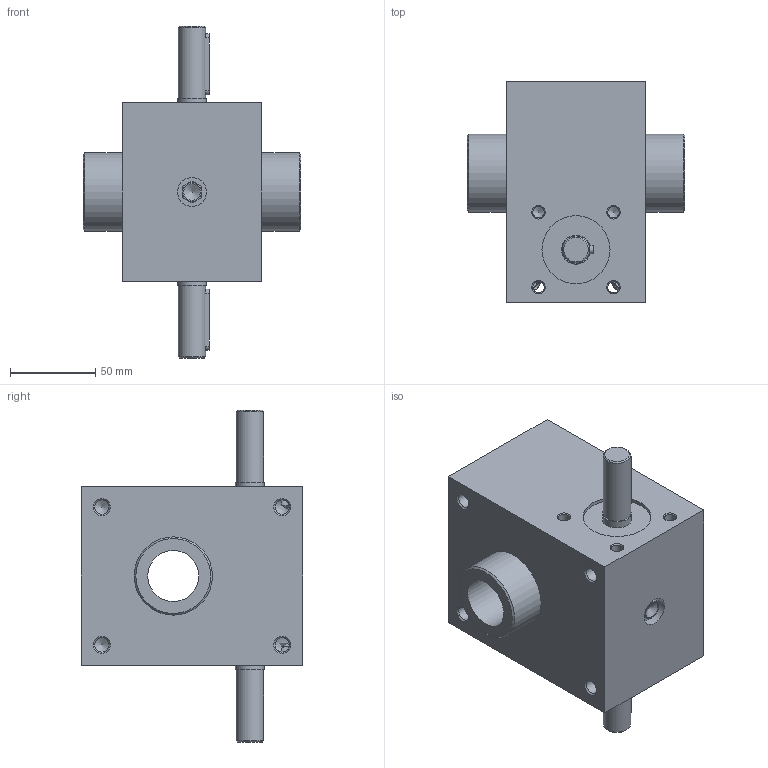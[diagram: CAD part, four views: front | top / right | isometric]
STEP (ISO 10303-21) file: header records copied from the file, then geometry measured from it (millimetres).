
FILE_DESCRIPTION(/* description */ (''),/* implementation_level */ '2;1');
FILE_NAME(/* name */ 'D:\FOLDER Tomasz Michałek\pliki z pulpitu\Katalogi przekładni\Podnośniki śrubowe\Pivexin Technology\Podnosniki - potrzebne\Modele podnosnikow\N\SG25\M3-N-241\SG25-N-L.stp',/* time_stamp */ '2016-05-17T22:26:28+02:00',/* author */ ('Tomasz'),/* organization */ (''),/* preprocessor_version */ 'ST-DEVELOPER v16.1',/* originating_system */ 'Autodesk Inventor 2016',/* authorisation */ '');
FILE_SCHEMA (('AUTOMOTIVE_DESIGN { 1 0 10303 214 3 1 1 }'));
Length unit declared in the file: millimetre
Products named in the file (3): SG25-N_obudowa; SG25_slimak; SG25-N-H
Assembly tree (2 placements, depth 2):
  SG25-N-H
    SG25-N_obudowa
    SG25_slimak
Bounding box: 128 x 130 x 195 mm (x, y, z)
Volume: 1105633.9 mm3; surface area: 105002.2 mm2
Topology: 2 solids, 2 shells, 101 faces, 248 edges, 160 vertices
Faces by surface type: cone 43, cylinder 30, plane 28
Full cylindrical faces by diameter (mm): 6.647 x8, 8.376 x8, 16 x2, 17 x3, 30 x1, 40 x2, 46 x2
Entity records: 2672 total; most frequent: CARTESIAN_POINT 672, DIRECTION 418, ORIENTED_EDGE 310, AXIS2_PLACEMENT_3D 189, EDGE_LOOP 178, EDGE_CURVE 155, VERTEX_POINT 123, FACE_OUTER_BOUND 101
